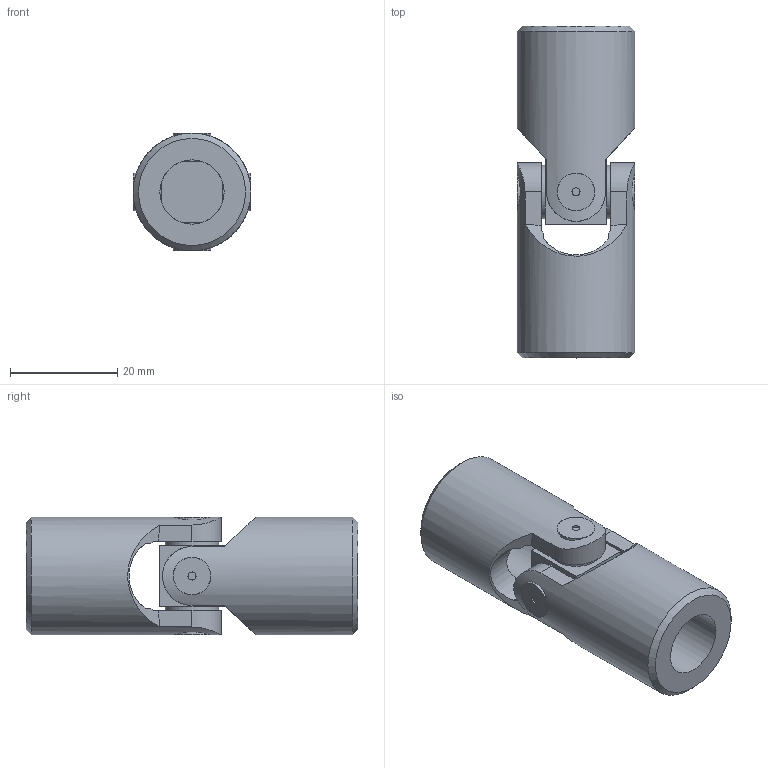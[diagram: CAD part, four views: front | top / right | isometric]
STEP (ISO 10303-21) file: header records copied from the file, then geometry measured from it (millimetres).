
FILE_DESCRIPTION(/* description */ ('EXTENSIBLE TRANSIMISSIONS Series G DIN 808 -2-'),/* implementation_level */ '2;1');
FILE_NAME(/* name */ '\\SRV2016\Societa\Stefano\Disegni 3D\Dis. Clienti\0000Catalogo 3D\01Singoli G-GB\04GB-00_SGBS1200.stp',/* time_stamp */ '2021-11-10T14:45:03+01:00',/* author */ ('acquisti'),/* organization */ ('MARIOFERRI'),/* preprocessor_version */ 'ST-DEVELOPER v15.6',/* originating_system */ 'Autodesk Inventor 2015',/* authorisation */ '');
FILE_SCHEMA (('AUTOMOTIVE_DESIGN { 1 0 10303 214 3 1 1 }'));
Length unit declared in the file: millimetre
Products named in the file (3): 03G SFE; 04GB MOS; Assieme5
Assembly tree (3 placements, depth 2):
  Assieme5
    03G SFE
    04GB MOS  x2
Bounding box: 22 x 62 x 22 mm (x, y, z)
Volume: 15462.5 mm3; surface area: 7935.6 mm2
Topology: 3 solids, 3 shells, 74 faces, 168 edges, 108 vertices
Faces by surface type: plane 36, cylinder 24, cone 10, torus 4
Full cylindrical faces by diameter (mm): 1.5 x4, 10 x4, 12 x2, 22 x2
Entity records: 1414 total; most frequent: CARTESIAN_POINT 451, DIRECTION 190, ORIENTED_EDGE 170, EDGE_CURVE 85, AXIS2_PLACEMENT_3D 83, EDGE_LOOP 62, VERTEX_POINT 61, FACE_OUTER_BOUND 44
